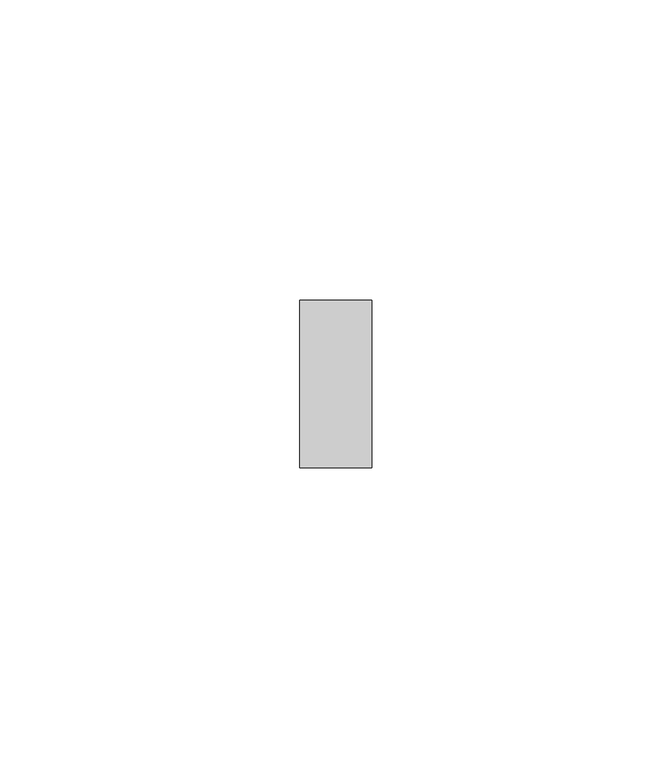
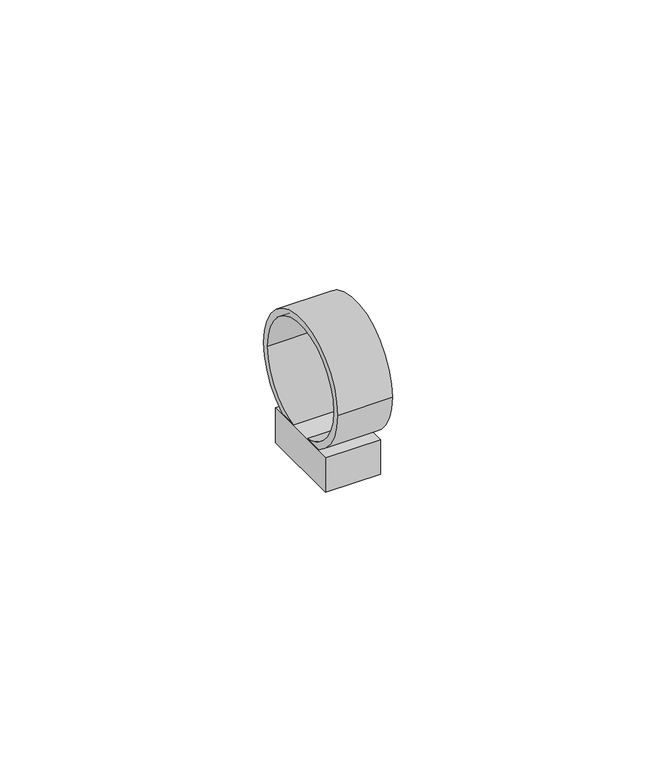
"""IFC4 building model written with IfcOpenShell, lengths in millimetres: cable carrier fitting geometry, Крепеж-клипса_для_труб_с_фиксатором : Крепеж-клипса для трубы D25мм с фиксатором."""

from ifc_helpers import new_model, si_unit, point, frame, origin, origin_2d, place, context, project, spatial, polyline, circle_curve, trimmed, segment, composite_curve, outline, extrude, source, transform, mapped, element, save


def cable_carrier_fitting_25dcd06c(model_context):
    return source(origin(), model_context, "Body", "SweptSolid", [
        extrude(outline(polyline([(6.0, 9.5), (6.0, -9.5), (-6.0, -9.5), (-6.0, 9.5), (6.0, 9.5)])), frame((0.0, 0.0, -20.5), z_axis=(0.0, 0.0, 1.0), x_axis=(1.0, 0.0, 0.0)), (0.0, 0.0, 1.0), 8.0),
        extrude(outline(composite_curve([segment(trimmed(circle_curve(origin_2d(), 14.0), [point((-14.0, 0.0))], [point((14.0, 0.0))], False, "CARTESIAN"), True, "CONTINUOUS"), segment(trimmed(circle_curve(origin_2d(), 14.0), [point((14.0, 0.0))], [point((-14.0, 0.0))], False, "CARTESIAN"), True, "CONTINUOUS")], self_intersect=False), holes=[composite_curve([segment(trimmed(circle_curve(origin_2d(), 12.5), [point((-12.5, 0.0))], [point((12.5, 0.0))], True, "CARTESIAN"), True, "CONTINUOUS"), segment(trimmed(circle_curve(origin_2d(), 12.5), [point((12.5, 0.0))], [point((-12.5, 0.0))], True, "CARTESIAN"), True, "CONTINUOUS")], self_intersect=False)]), frame((-6.0, 0.0, 0.0), z_axis=(1.0, 0.0, 0.0), x_axis=(0.0, 1.0, 0.0)), (0.0, 0.0, 1.0), 12.0),
    ])


if __name__ == "__main__":
    model = new_model("IFC4")
    model_context = context("Model", 3, world=origin())
    ifc_project = project(units=[si_unit("LENGTHUNIT", "METRE", prefix="MILLI")], contexts=[model_context])
    site = spatial("IfcSite", under=ifc_project)
    building = spatial("IfcBuilding", under=site)
    placement = place(None, origin())
    cable_carrier_fitting_shape = cable_carrier_fitting_25dcd06c(model_context)
    element("IfcCableCarrierFitting", 1, ObjectType="Крепеж-клипса_для_труб_с_фиксатором : Крепеж-клипса для трубы D25мм с фиксатором", at=placement, inside=building, context=model_context, shape_type="MappedRepresentation", body=[
        mapped(cable_carrier_fitting_shape, transform((0.0, 0.0, 0.0), x_axis=(1.0, 0.0, 0.0), y_axis=(0.0, 1.0, 0.0), z_axis=(0.0, 0.0, 1.0))),
    ])
    save(model, "model.ifc")
